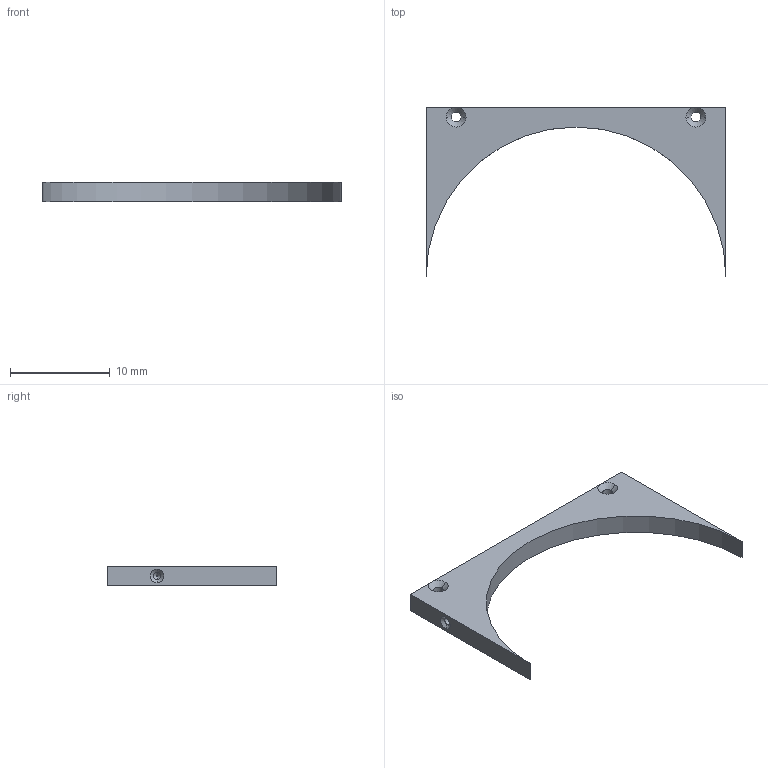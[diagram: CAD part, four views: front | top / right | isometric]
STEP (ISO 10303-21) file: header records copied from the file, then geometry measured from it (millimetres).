
FILE_DESCRIPTION (( 'STEP AP214' ), '1' );
FILE_NAME ('G10.STEP', '2016-02-28T08:59:45', ( '' ), ( '' ), 'SwSTEP 2.0', 'SolidWorks 2012', '' );
FILE_SCHEMA (( 'AUTOMOTIVE_DESIGN' ));
Length unit declared in the file: millimetre
Products named in the file (1): G10
Bounding box: 30 x 17 x 2 mm (x, y, z)
Volume: 305.1 mm3; surface area: 564.7 mm2
Topology: 1 solids, 1 shells, 75 faces, 193 edges, 124 vertices
Faces by surface type: bspline 29, plane 25, cone 12, cylinder 9
Entity records: 3691 total; most frequent: CARTESIAN_POINT 1998, ORIENTED_EDGE 386, DIRECTION 261, EDGE_CURVE 193, VERTEX_POINT 124, VECTOR 103, LINE 103, EDGE_LOOP 83
